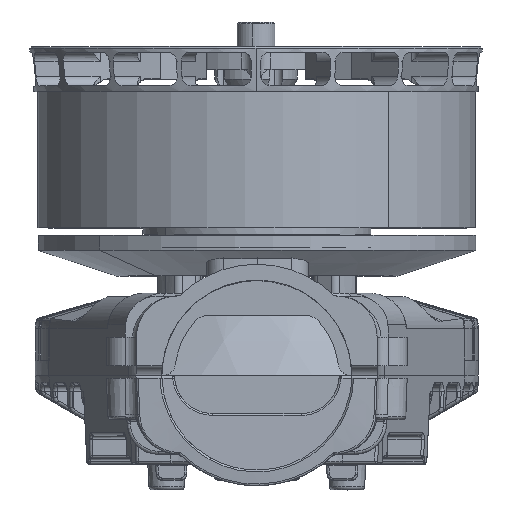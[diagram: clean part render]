
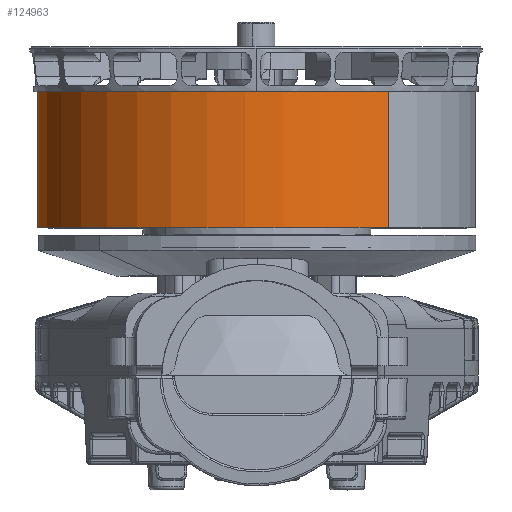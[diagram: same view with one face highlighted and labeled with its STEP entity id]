
A CAD part, top view. The second image highlights one B-rep face of the part: STEP entity #124963.
In plain terms, the highlighted cylindrical face has radius 34.65 mm (diameter 69.3 mm), a partial arc.
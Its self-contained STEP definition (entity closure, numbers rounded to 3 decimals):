
#5649 = DIRECTION ( 'NONE',  ( 0., -1., 0. ) ) ;
#5976 = EDGE_LOOP ( 'NONE', ( #83466, #123087, #102767, #84045 ) ) ;
#6440 = LINE ( 'NONE', #131228, #93995 ) ;
#8598 = DIRECTION ( 'NONE',  ( 0., -1., 0. ) ) ;
#8738 = DIRECTION ( 'NONE',  ( 0., -1., 0. ) ) ;
#10190 = CARTESIAN_POINT ( 'NONE',  ( 0., 21.5, 0. ) ) ;
#10333 = CARTESIAN_POINT ( 'NONE',  ( 0., 0., 34.65 ) ) ;
#10666 = AXIS2_PLACEMENT_3D ( 'NONE', #138031, #26277, #76054 ) ;
#25541 = EDGE_CURVE ( 'NONE', #141616, #143707, #6440, .T. ) ;
#26277 = DIRECTION ( 'NONE',  ( 0., -1., 0. ) ) ;
#32414 = FACE_OUTER_BOUND ( 'NONE', #5976, .T. ) ;
#38043 = CARTESIAN_POINT ( 'NONE',  ( 0., 0., -34.65 ) ) ;
#59611 = AXIS2_PLACEMENT_3D ( 'NONE', #72341, #148979, #97629 ) ;
#66775 = EDGE_CURVE ( 'NONE', #80475, #130471, #122095, .T. ) ;
#72341 = CARTESIAN_POINT ( 'NONE',  ( 0., 0., 0. ) ) ;
#76054 = DIRECTION ( 'NONE',  ( 0., 0., -1. ) ) ;
#80475 = VERTEX_POINT ( 'NONE', #91577 ) ;
#82179 = CYLINDRICAL_SURFACE ( 'NONE', #59611, 34.65 ) ;
#83466 = ORIENTED_EDGE ( 'NONE', *, *, #108771, .T. ) ;
#84045 = ORIENTED_EDGE ( 'NONE', *, *, #25541, .F. ) ;
#91577 = CARTESIAN_POINT ( 'NONE',  ( 0., 21.5, 34.65 ) ) ;
#93995 = VECTOR ( 'NONE', #5649, 1000. ) ;
#97629 = DIRECTION ( 'NONE',  ( 0., 0., -1. ) ) ;
#102395 = VECTOR ( 'NONE', #8738, 1000. ) ;
#102767 = ORIENTED_EDGE ( 'NONE', *, *, #127996, .F. ) ;
#108771 = EDGE_CURVE ( 'NONE', #141616, #80475, #134950, .T. ) ;
#111593 = AXIS2_PLACEMENT_3D ( 'NONE', #10190, #8598, #134983 ) ;
#122095 = LINE ( 'NONE', #10333, #102395 ) ;
#123087 = ORIENTED_EDGE ( 'NONE', *, *, #66775, .T. ) ;
#124963 = ADVANCED_FACE ( 'NONE', ( #32414 ), #82179, .T. ) ;
#127996 = EDGE_CURVE ( 'NONE', #143707, #130471, #148649, .T. ) ;
#130471 = VERTEX_POINT ( 'NONE', #144442 ) ;
#131228 = CARTESIAN_POINT ( 'NONE',  ( 0., 0., -34.65 ) ) ;
#134950 = CIRCLE ( 'NONE', #111593, 34.65 ) ;
#134983 = DIRECTION ( 'NONE',  ( 0., 0., -1. ) ) ;
#138031 = CARTESIAN_POINT ( 'NONE',  ( 0., 0., 0. ) ) ;
#141616 = VERTEX_POINT ( 'NONE', #142813 ) ;
#142813 = CARTESIAN_POINT ( 'NONE',  ( 0., 21.5, -34.65 ) ) ;
#143707 = VERTEX_POINT ( 'NONE', #38043 ) ;
#144442 = CARTESIAN_POINT ( 'NONE',  ( 0., 0., 34.65 ) ) ;
#148649 = CIRCLE ( 'NONE', #10666, 34.65 ) ;
#148979 = DIRECTION ( 'NONE',  ( 0., -1., 0. ) ) ;
